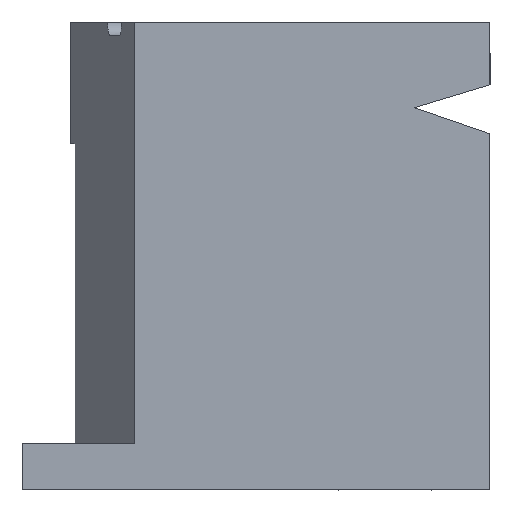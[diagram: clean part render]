
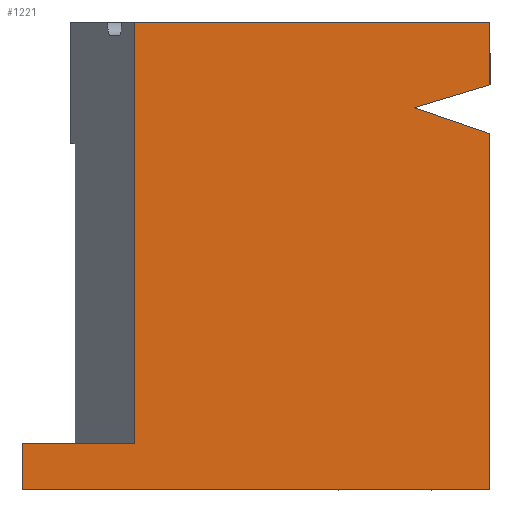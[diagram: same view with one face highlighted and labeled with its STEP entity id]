
A CAD part, left-side view. The second image highlights one B-rep face of the part: STEP entity #1221.
In plain terms, the highlighted planar face has unit normal (-1, 0, 0).
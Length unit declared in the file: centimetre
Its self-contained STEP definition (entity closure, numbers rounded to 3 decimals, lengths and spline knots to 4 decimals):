
#6 = ORIENTED_EDGE ( 'NONE', *, *, #613, .F. ) ;
#22 = ORIENTED_EDGE ( 'NONE', *, *, #834, .F. ) ;
#26 = LINE ( 'NONE', #321, #40 ) ;
#28 = ORIENTED_EDGE ( 'NONE', *, *, #1259, .T. ) ;
#33 = LINE ( 'NONE', #207, #982 ) ;
#40 = VECTOR ( 'NONE', #708, 100. ) ;
#45 = VERTEX_POINT ( 'NONE', #855 ) ;
#60 = FACE_OUTER_BOUND ( 'NONE', #1173, .T. ) ;
#67 = DIRECTION ( 'NONE',  ( 0., -1., 0. ) ) ;
#74 = CARTESIAN_POINT ( 'NONE',  ( 0., 162.3406, 816.9516 ) ) ;
#87 = LINE ( 'NONE', #758, #488 ) ;
#145 = EDGE_CURVE ( 'NONE', #377, #45, #33, .T. ) ;
#150 = LINE ( 'NONE', #74, #1104 ) ;
#155 = PLANE ( 'NONE',  #506 ) ;
#207 = CARTESIAN_POINT ( 'NONE',  ( 0., 1000., 1000. ) ) ;
#226 = DIRECTION ( 'NONE',  ( 0., -1., 0. ) ) ;
#233 = CARTESIAN_POINT ( 'NONE',  ( 0., 1000., 0. ) ) ;
#247 = ORIENTED_EDGE ( 'NONE', *, *, #145, .T. ) ;
#250 = CARTESIAN_POINT ( 'NONE',  ( 0., 0., 0. ) ) ;
#281 = VECTOR ( 'NONE', #1147, 100. ) ;
#287 = EDGE_CURVE ( 'NONE', #716, #698, #150, .T. ) ;
#314 = EDGE_CURVE ( 'NONE', #377, #742, #458, .T. ) ;
#318 = VERTEX_POINT ( 'NONE', #949 ) ;
#321 = CARTESIAN_POINT ( 'NONE',  ( 0., 758.9708, 99.7673 ) ) ;
#377 = VERTEX_POINT ( 'NONE', #1050 ) ;
#416 = DIRECTION ( 'NONE',  ( 0., 0., -1. ) ) ;
#449 = DIRECTION ( 'NONE',  ( 1., 0., 0. ) ) ;
#452 = CARTESIAN_POINT ( 'NONE',  ( 0., 758.9708, 99.7673 ) ) ;
#455 = CARTESIAN_POINT ( 'NONE',  ( 0., 1000., 1000. ) ) ;
#456 = CARTESIAN_POINT ( 'NONE',  ( 0., 162.3406, 816.9516 ) ) ;
#458 = LINE ( 'NONE', #452, #281 ) ;
#482 = LINE ( 'NONE', #1080, #919 ) ;
#488 = VECTOR ( 'NONE', #954, 100. ) ;
#506 = AXIS2_PLACEMENT_3D ( 'NONE', #820, #449, #624 ) ;
#528 = VECTOR ( 'NONE', #67, 100. ) ;
#560 = EDGE_CURVE ( 'NONE', #1034, #699, #1012, .T. ) ;
#577 = ORIENTED_EDGE ( 'NONE', *, *, #560, .F. ) ;
#613 = EDGE_CURVE ( 'NONE', #742, #318, #26, .T. ) ;
#624 = DIRECTION ( 'NONE',  ( 0., 0., -1. ) ) ;
#626 = CARTESIAN_POINT ( 'NONE',  ( 0., 0., 865.5266 ) ) ;
#627 = EDGE_CURVE ( 'NONE', #45, #699, #916, .T. ) ;
#651 = CARTESIAN_POINT ( 'NONE',  ( 0., 758.9708, 99.7673 ) ) ;
#654 = ORIENTED_EDGE ( 'NONE', *, *, #314, .F. ) ;
#669 = VECTOR ( 'NONE', #416, 100. ) ;
#696 = CARTESIAN_POINT ( 'NONE',  ( 0., 0., 1000. ) ) ;
#698 = VERTEX_POINT ( 'NONE', #626 ) ;
#699 = VERTEX_POINT ( 'NONE', #250 ) ;
#708 = DIRECTION ( 'NONE',  ( 0., 0., 1. ) ) ;
#711 = ORIENTED_EDGE ( 'NONE', *, *, #627, .T. ) ;
#716 = VERTEX_POINT ( 'NONE', #456 ) ;
#742 = VERTEX_POINT ( 'NONE', #651 ) ;
#749 = VECTOR ( 'NONE', #226, 100. ) ;
#758 = CARTESIAN_POINT ( 'NONE',  ( 0., 0., 761.2647 ) ) ;
#786 = CARTESIAN_POINT ( 'NONE',  ( 0., 0., 761.2647 ) ) ;
#802 = DIRECTION ( 'NONE',  ( 0., 0., -1. ) ) ;
#820 = CARTESIAN_POINT ( 'NONE',  ( 0., 1000., 1000. ) ) ;
#834 = EDGE_CURVE ( 'NONE', #1168, #698, #482, .T. ) ;
#855 = CARTESIAN_POINT ( 'NONE',  ( 0., 1000., 0. ) ) ;
#877 = ORIENTED_EDGE ( 'NONE', *, *, #287, .T. ) ;
#916 = LINE ( 'NONE', #233, #749 ) ;
#919 = VECTOR ( 'NONE', #1258, 100. ) ;
#921 = CARTESIAN_POINT ( 'NONE',  ( 0., 0., 1000. ) ) ;
#923 = DIRECTION ( 'NONE',  ( 0., -0.958, 0.287 ) ) ;
#926 = LINE ( 'NONE', #455, #528 ) ;
#949 = CARTESIAN_POINT ( 'NONE',  ( 0., 758.9708, 1000. ) ) ;
#954 = DIRECTION ( 'NONE',  ( 0., 0.946, 0.324 ) ) ;
#982 = VECTOR ( 'NONE', #802, 100. ) ;
#1012 = LINE ( 'NONE', #696, #669 ) ;
#1034 = VERTEX_POINT ( 'NONE', #786 ) ;
#1050 = CARTESIAN_POINT ( 'NONE',  ( 0., 1000., 99.7673 ) ) ;
#1080 = CARTESIAN_POINT ( 'NONE',  ( 0., 0., 1000. ) ) ;
#1091 = ORIENTED_EDGE ( 'NONE', *, *, #1178, .F. ) ;
#1104 = VECTOR ( 'NONE', #923, 100. ) ;
#1147 = DIRECTION ( 'NONE',  ( 0., -1., 0. ) ) ;
#1168 = VERTEX_POINT ( 'NONE', #921 ) ;
#1173 = EDGE_LOOP ( 'NONE', ( #28, #877, #22, #1091, #6, #654, #247, #711, #577 ) ) ;
#1178 = EDGE_CURVE ( 'NONE', #318, #1168, #926, .T. ) ;
#1221 = ADVANCED_FACE ( 'NONE', ( #60 ), #155, .F. ) ;
#1258 = DIRECTION ( 'NONE',  ( 0., 0., -1. ) ) ;
#1259 = EDGE_CURVE ( 'NONE', #1034, #716, #87, .T. ) ;
